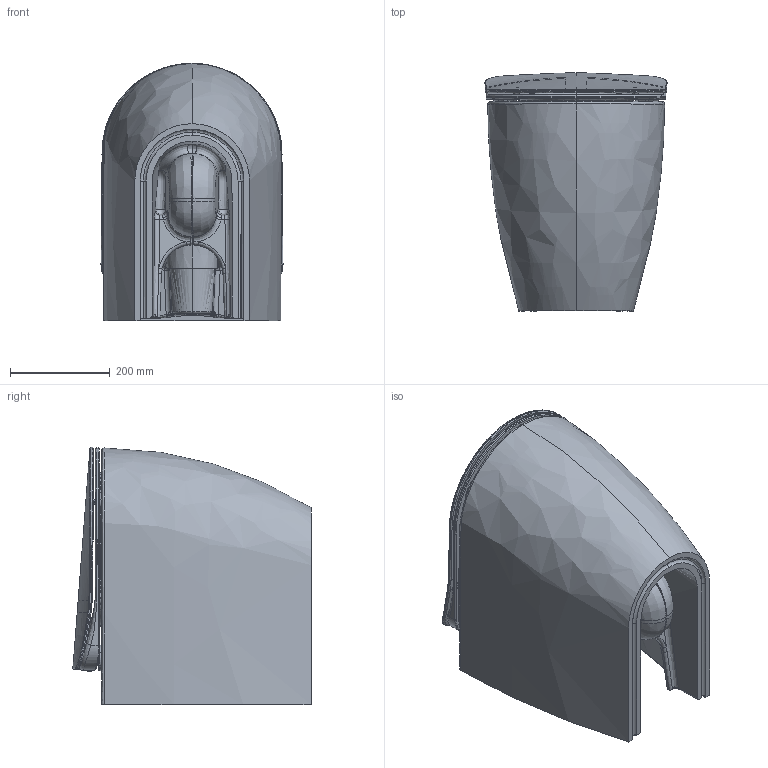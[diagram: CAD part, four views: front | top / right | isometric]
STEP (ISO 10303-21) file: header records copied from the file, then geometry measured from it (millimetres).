
FILE_DESCRIPTION (( 'STEP AP203' ), '1' );
FILE_NAME ('FE350+KC0903.02.0000E.STEP', '2022-04-11T06:51:41', ( '' ), ( '' ), 'SwSTEP 2.0', 'SolidWorks 2021', '' );
FILE_SCHEMA (( 'CONFIG_CONTROL_DESIGN' ));
Products named in the file (1): FE350+KC0903.02.0000E
Bounding box: 365.26 x 477.99 x 516.19 mm (x, y, z)
Volume: 33967690 mm3; surface area: 1983864.2 mm2
Topology: 25 solids, 25 shells, 1417 faces, 3442 edges, 2118 vertices
Faces by surface type: bspline 452, cylinder 437, plane 327, torus 104, cone 62, sphere 35
Entity records: 127440 total; most frequent: CARTESIAN_POINT 97572, ORIENTED_EDGE 6786, DIRECTION 5406, EDGE_CURVE 3393, AXIS2_PLACEMENT_3D 2230, VERTEX_POINT 2116, EDGE_LOOP 1543, FACE_OUTER_BOUND 1417
